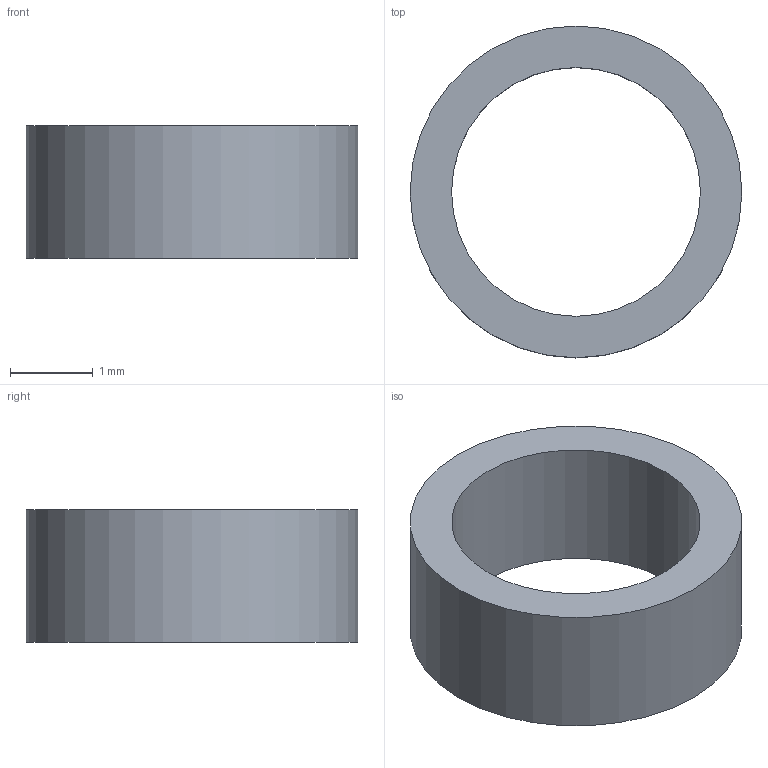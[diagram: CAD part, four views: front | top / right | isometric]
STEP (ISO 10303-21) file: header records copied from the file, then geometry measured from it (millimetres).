
FILE_DESCRIPTION(/* description */ ('STEP AP242 Edition 2','CAx-IF Rec.Pracs.---Representation and Presentation of Product Manufacturing Information (PMI)---4.0---2014-10-13','CAx-IF Rec.Pracs.---3D Tessellated Geometry---0.4---2014-09-14','2;1','CAx-IF Rec.Pracs.---User Defined Attributes---1.5---2016-08-15'),/* implementation_level */ '2;1');
FILE_NAME(/* name */ 'Drone Layout - Surface 334',/* time_stamp */ '2026-10-04T22:22:56Z',/* author */ (''),/* organization */ (''),/* preprocessor_version */ 'ST-DEVELOPER v20',/* originating_system */ 'ONSHAPE BY PTC INC, 1.221',/* authorisation */ ' ');
FILE_SCHEMA (('AP242_MANAGED_MODEL_BASED_3D_ENGINEERING_MIM_LF { 1 0 10303 442 3 1 4 }'));
Length unit declared in the file: metre
Products named in the file (1): VL53L0X:1__M3 (2)
Bounding box: 4 x 4 x 1.6 mm (x, y, z)
Volume: 8.8 mm3; surface area: 46.2 mm2
Topology: 1 solids, 1 shells, 4 faces, 6 edges, 4 vertices
Faces by surface type: cylinder 2, plane 2
Full cylindrical faces by diameter (mm): 3 x1, 4 x1
Entity records: 111 total; most frequent: DIRECTION 20, CARTESIAN_POINT 15, ORIENTED_EDGE 12, AXIS2_PLACEMENT_3D 9, EDGE_CURVE 6, EDGE_LOOP 6, FACE_BOUND 6, VERTEX_POINT 4
